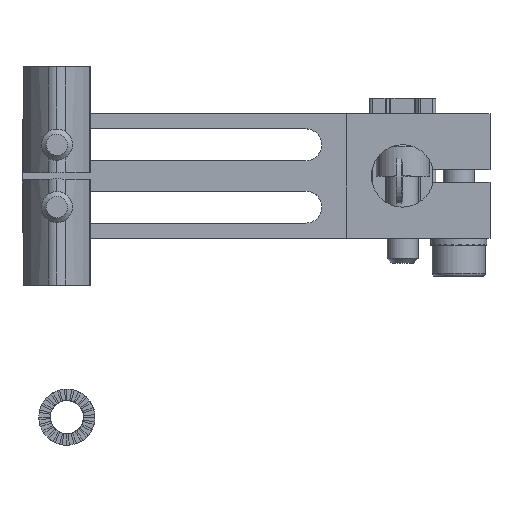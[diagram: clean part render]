
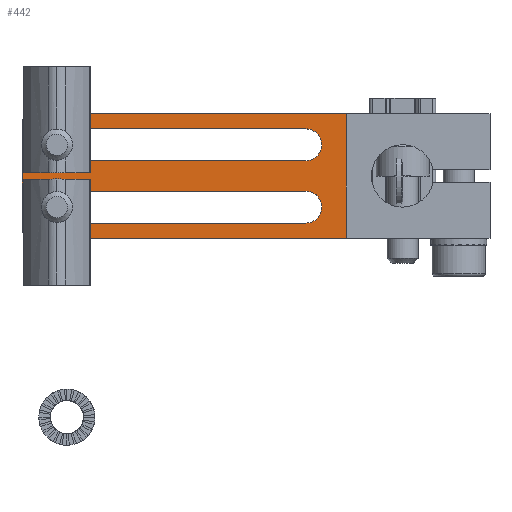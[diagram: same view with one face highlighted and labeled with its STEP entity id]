
A CAD part, top view. The second image highlights one B-rep face of the part: STEP entity #442.
In plain terms, the highlighted planar face has unit normal (0, 0, 1).
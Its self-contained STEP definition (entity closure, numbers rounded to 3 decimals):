
#442 = ADVANCED_FACE( '', ( #1192, #1193, #1194 ), #1195, .F. );
#1192 = FACE_BOUND( '', #2264, .T. );
#1193 = FACE_OUTER_BOUND( '', #2265, .T. );
#1194 = FACE_BOUND( '', #2266, .T. );
#1195 = PLANE( '', #2267 );
#2264 = EDGE_LOOP( '', ( #3624, #3625, #3626, #3627 ) );
#2265 = EDGE_LOOP( '', ( #3628, #3629, #3630, #3631, #3632, #3633 ) );
#2266 = EDGE_LOOP( '', ( #3634, #3635, #3636, #3637 ) );
#2267 = AXIS2_PLACEMENT_3D( '', #3638, #3639, #3640 );
#3624 = ORIENTED_EDGE( '', *, *, #6263, .T. );
#3625 = ORIENTED_EDGE( '', *, *, #6264, .T. );
#3626 = ORIENTED_EDGE( '', *, *, #6265, .T. );
#3627 = ORIENTED_EDGE( '', *, *, #6266, .T. );
#3628 = ORIENTED_EDGE( '', *, *, #6267, .T. );
#3629 = ORIENTED_EDGE( '', *, *, #6268, .F. );
#3630 = ORIENTED_EDGE( '', *, *, #6269, .T. );
#3631 = ORIENTED_EDGE( '', *, *, #6270, .T. );
#3632 = ORIENTED_EDGE( '', *, *, #6271, .F. );
#3633 = ORIENTED_EDGE( '', *, *, #6272, .F. );
#3634 = ORIENTED_EDGE( '', *, *, #6273, .T. );
#3635 = ORIENTED_EDGE( '', *, *, #6274, .T. );
#3636 = ORIENTED_EDGE( '', *, *, #6275, .T. );
#3637 = ORIENTED_EDGE( '', *, *, #6276, .T. );
#3638 = CARTESIAN_POINT( '', ( -65.681, 50.325, 5.8 ) );
#3639 = DIRECTION( '', ( 0., 0., -1. ) );
#3640 = DIRECTION( '', ( -1., 0., 0. ) );
#6263 = EDGE_CURVE( '', #7298, #7299, #7300, .T. );
#6264 = EDGE_CURVE( '', #7299, #7301, #7302, .T. );
#6265 = EDGE_CURVE( '', #7301, #7303, #7304, .T. );
#6266 = EDGE_CURVE( '', #7303, #7298, #7305, .T. );
#6267 = EDGE_CURVE( '', #7306, #7307, #7308, .F. );
#6268 = EDGE_CURVE( '', #7309, #7307, #7310, .T. );
#6269 = EDGE_CURVE( '', #7309, #7311, #7312, .F. );
#6270 = EDGE_CURVE( '', #7311, #7313, #7314, .T. );
#6271 = EDGE_CURVE( '', #7315, #7313, #7316, .T. );
#6272 = EDGE_CURVE( '', #7306, #7315, #7317, .T. );
#6273 = EDGE_CURVE( '', #7318, #7319, #7320, .T. );
#6274 = EDGE_CURVE( '', #7319, #7321, #7322, .T. );
#6275 = EDGE_CURVE( '', #7321, #7323, #7324, .T. );
#6276 = EDGE_CURVE( '', #7323, #7318, #7325, .T. );
#7298 = VERTEX_POINT( '', #8794 );
#7299 = VERTEX_POINT( '', #8795 );
#7300 = LINE( '', #8796, #8797 );
#7301 = VERTEX_POINT( '', #8798 );
#7302 = CIRCLE( '', #8799, 2.55 );
#7303 = VERTEX_POINT( '', #8800 );
#7304 = LINE( '', #8801, #8802 );
#7305 = CIRCLE( '', #8803, 2.55 );
#7306 = VERTEX_POINT( '', #8804 );
#7307 = VERTEX_POINT( '', #8805 );
#7308 = LINE( '', #8806, #8807 );
#7309 = VERTEX_POINT( '', #8808 );
#7310 = LINE( '', #8809, #8810 );
#7311 = VERTEX_POINT( '', #8811 );
#7312 = LINE( '', #8812, #8813 );
#7313 = VERTEX_POINT( '', #8814 );
#7314 = LINE( '', #8815, #8816 );
#7315 = VERTEX_POINT( '', #8817 );
#7316 = LINE( '', #8818, #8819 );
#7317 = LINE( '', #8820, #8821 );
#7318 = VERTEX_POINT( '', #8822 );
#7319 = VERTEX_POINT( '', #8823 );
#7320 = CIRCLE( '', #8824, 2.55 );
#7321 = VERTEX_POINT( '', #8825 );
#7322 = LINE( '', #8826, #8827 );
#7323 = VERTEX_POINT( '', #8828 );
#7324 = CIRCLE( '', #8829, 2.55 );
#7325 = LINE( '', #8830, #8831 );
#8794 = CARTESIAN_POINT( '', ( -15.5, 2.45, 5.8 ) );
#8795 = CARTESIAN_POINT( '', ( -55.4, 2.45, 5.8 ) );
#8796 = CARTESIAN_POINT( '', ( -55.4, 2.45, 5.8 ) );
#8797 = VECTOR( '', #10583, 1000. );
#8798 = CARTESIAN_POINT( '', ( -55.4, 7.55, 5.8 ) );
#8799 = AXIS2_PLACEMENT_3D( '', #10584, #10585, #10586 );
#8800 = CARTESIAN_POINT( '', ( -15.5, 7.55, 5.8 ) );
#8801 = CARTESIAN_POINT( '', ( -15.5, 7.55, 5.8 ) );
#8802 = VECTOR( '', #10587, 1000. );
#8803 = AXIS2_PLACEMENT_3D( '', #10588, #10589, #10590 );
#8804 = CARTESIAN_POINT( '', ( -60., 10., 5.8 ) );
#8805 = CARTESIAN_POINT( '', ( -61., 9., 5.8 ) );
#8806 = CARTESIAN_POINT( '', ( -61., 9., 5.8 ) );
#8807 = VECTOR( '', #10591, 1000. );
#8808 = CARTESIAN_POINT( '', ( -61., -9., 5.8 ) );
#8809 = CARTESIAN_POINT( '', ( -61., 10., 5.8 ) );
#8810 = VECTOR( '', #10592, 1000. );
#8811 = CARTESIAN_POINT( '', ( -60., -10., 5.8 ) );
#8812 = CARTESIAN_POINT( '', ( -60., -10., 5.8 ) );
#8813 = VECTOR( '', #10593, 1000. );
#8814 = CARTESIAN_POINT( '', ( -9., -10., 5.8 ) );
#8815 = CARTESIAN_POINT( '', ( -65.681, -10., 5.8 ) );
#8816 = VECTOR( '', #10594, 1000. );
#8817 = CARTESIAN_POINT( '', ( -9., 10., 5.8 ) );
#8818 = CARTESIAN_POINT( '', ( -9., 50.325, 5.8 ) );
#8819 = VECTOR( '', #10595, 1000. );
#8820 = CARTESIAN_POINT( '', ( 14., 10., 5.8 ) );
#8821 = VECTOR( '', #10596, 1000. );
#8822 = CARTESIAN_POINT( '', ( -15.5, -2.45, 5.8 ) );
#8823 = CARTESIAN_POINT( '', ( -15.5, -7.55, 5.8 ) );
#8824 = AXIS2_PLACEMENT_3D( '', #10597, #10598, #10599 );
#8825 = CARTESIAN_POINT( '', ( -55.4, -7.55, 5.8 ) );
#8826 = CARTESIAN_POINT( '', ( -55.4, -7.55, 5.8 ) );
#8827 = VECTOR( '', #10600, 1000. );
#8828 = CARTESIAN_POINT( '', ( -55.4, -2.45, 5.8 ) );
#8829 = AXIS2_PLACEMENT_3D( '', #10601, #10602, #10603 );
#8830 = CARTESIAN_POINT( '', ( -55.4, -2.45, 5.8 ) );
#8831 = VECTOR( '', #10604, 1000. );
#10583 = DIRECTION( '', ( -1., 0., 0. ) );
#10584 = CARTESIAN_POINT( '', ( -55.4, 5., 5.8 ) );
#10585 = DIRECTION( '', ( 0., 0., -1. ) );
#10586 = DIRECTION( '', ( -1., 0., 0. ) );
#10587 = DIRECTION( '', ( 1., 0., 0. ) );
#10588 = CARTESIAN_POINT( '', ( -15.5, 5., 5.8 ) );
#10589 = DIRECTION( '', ( 0., 0., -1. ) );
#10590 = DIRECTION( '', ( -1., 0., 0. ) );
#10591 = DIRECTION( '', ( 0.707, 0.707, 0. ) );
#10592 = DIRECTION( '', ( 0., 1., 0. ) );
#10593 = DIRECTION( '', ( -0.707, 0.707, 0. ) );
#10594 = DIRECTION( '', ( 1., 0., 0. ) );
#10595 = DIRECTION( '', ( 0., -1., 0. ) );
#10596 = DIRECTION( '', ( 1., 0., 0. ) );
#10597 = CARTESIAN_POINT( '', ( -15.5, -5., 5.8 ) );
#10598 = DIRECTION( '', ( 0., 0., -1. ) );
#10599 = DIRECTION( '', ( -1., 0., 0. ) );
#10600 = DIRECTION( '', ( -1., 0., 0. ) );
#10601 = CARTESIAN_POINT( '', ( -55.4, -5., 5.8 ) );
#10602 = DIRECTION( '', ( 0., 0., -1. ) );
#10603 = DIRECTION( '', ( -1., 0., 0. ) );
#10604 = DIRECTION( '', ( 1., 0., 0. ) );
